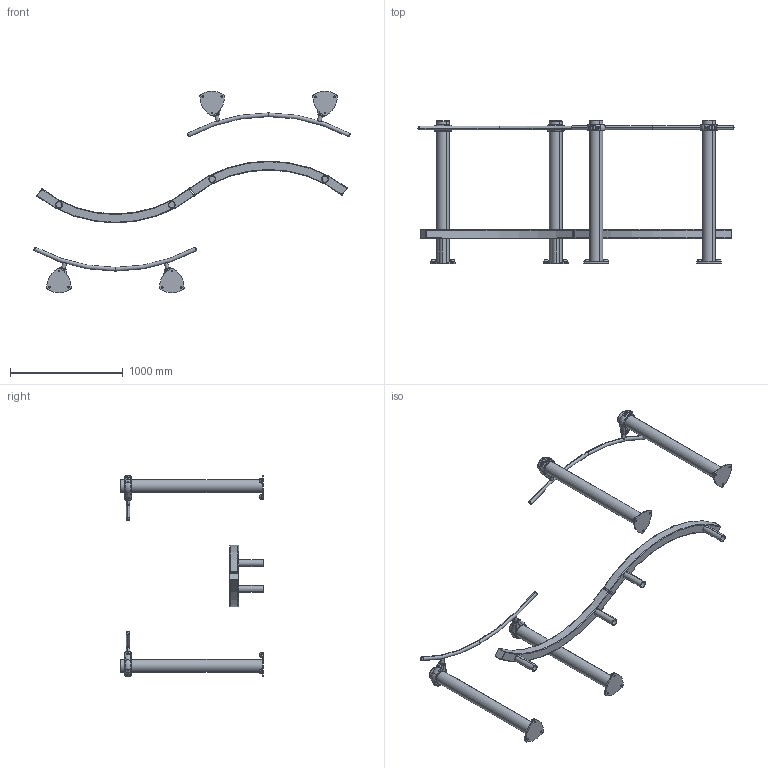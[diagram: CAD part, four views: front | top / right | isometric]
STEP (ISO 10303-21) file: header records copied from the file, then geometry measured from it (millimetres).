
FILE_DESCRIPTION (( 'STEP AP203' ), '1' );
FILE_NAME ('PMS0807 - POUTRE DUO CINTRÉ.STEP', '2024-07-31T08:43:44', ( '' ), ( '' ), 'SwSTEP 2.0', 'SolidWorks 2024', '' );
FILE_SCHEMA (( 'CONFIG_CONTROL_DESIGN' ));
Length unit declared in the file: millimetre
Products named in the file (1): PMS0807 - POUTRE DUO CINTRÉ
Bounding box: 2800.82 x 1265 x 1783.72 mm (x, y, z)
Surface area: 4036209.2 mm2 (no closed solid volume)
Topology: 0 solids, 122 shells, 766 faces, 2726 edges, 1996 vertices
Faces by surface type: bspline 258, cylinder 226, plane 174, torus 68, sphere 24, cone 16
Entity records: 48964 total; most frequent: CARTESIAN_POINT 29001, ORIENTED_EDGE 3996, DIRECTION 3490, EDGE_CURVE 2716, VERTEX_POINT 1996, AXIS2_PLACEMENT_3D 1381, B_SPLINE_CURVE_WITH_KNOTS 900, CIRCLE 872
